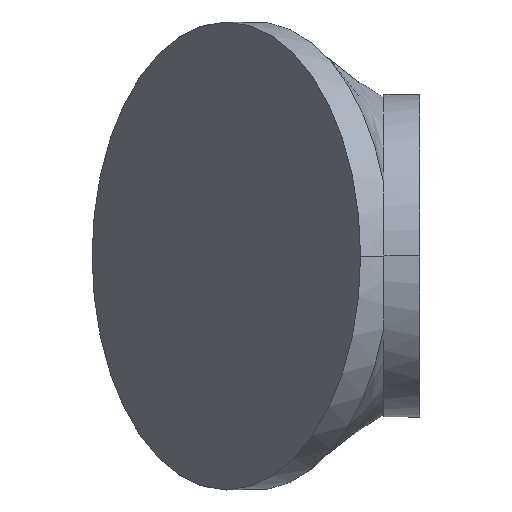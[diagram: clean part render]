
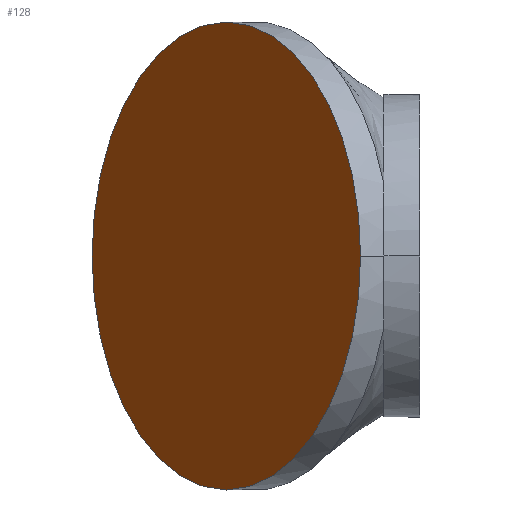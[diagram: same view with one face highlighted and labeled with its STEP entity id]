
A CAD part, left-side view. The second image highlights one B-rep face of the part: STEP entity #128.
In plain terms, the highlighted planar face has unit normal (-0.574, 0.819, 0).
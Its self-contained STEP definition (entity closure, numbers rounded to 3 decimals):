
#9 = CARTESIAN_POINT ( 'NONE',  ( 1220.377, -1686.63, 0. ) ) ;
#74 = PLANE ( 'NONE',  #442 ) ;
#78 = DIRECTION ( 'NONE',  ( -0.574, 0.819, 0. ) ) ;
#124 = VERTEX_POINT ( 'NONE', #9 ) ;
#128 = ADVANCED_FACE ( 'NONE', ( #225 ), #74, .T. ) ;
#136 = EDGE_CURVE ( 'NONE', #690, #124, #562, .T. ) ;
#179 = EDGE_CURVE ( 'NONE', #124, #690, #504, .T. ) ;
#200 = DIRECTION ( 'NONE',  ( -0.574, 0.819, 0. ) ) ;
#225 = FACE_OUTER_BOUND ( 'NONE', #338, .T. ) ;
#331 = CARTESIAN_POINT ( 'NONE',  ( 1372.74, -1579.945, 0. ) ) ;
#338 = EDGE_LOOP ( 'NONE', ( #692, #570 ) ) ;
#388 = DIRECTION ( 'NONE',  ( -0.819, -0.574, 0. ) ) ;
#396 = AXIS2_PLACEMENT_3D ( 'NONE', #579, #200, #642 ) ;
#442 = AXIS2_PLACEMENT_3D ( 'NONE', #331, #761, #388 ) ;
#447 = CARTESIAN_POINT ( 'NONE',  ( 1296.559, -1633.287, 0. ) ) ;
#478 = AXIS2_PLACEMENT_3D ( 'NONE', #447, #78, #520 ) ;
#504 = CIRCLE ( 'NONE', #478, 93. ) ;
#520 = DIRECTION ( 'NONE',  ( -0.819, -0.574, 0. ) ) ;
#562 = CIRCLE ( 'NONE', #396, 93. ) ;
#567 = CARTESIAN_POINT ( 'NONE',  ( 1372.74, -1579.945, 0. ) ) ;
#570 = ORIENTED_EDGE ( 'NONE', *, *, #136, .T. ) ;
#579 = CARTESIAN_POINT ( 'NONE',  ( 1296.559, -1633.287, 0. ) ) ;
#642 = DIRECTION ( 'NONE',  ( -0.819, -0.574, 0. ) ) ;
#690 = VERTEX_POINT ( 'NONE', #567 ) ;
#692 = ORIENTED_EDGE ( 'NONE', *, *, #179, .T. ) ;
#761 = DIRECTION ( 'NONE',  ( -0.574, 0.819, 0. ) ) ;
